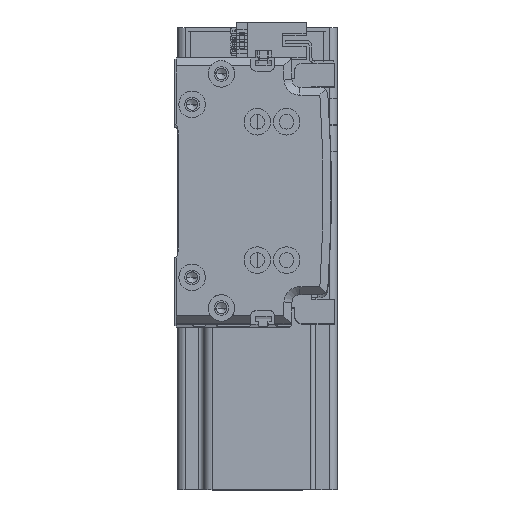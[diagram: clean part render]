
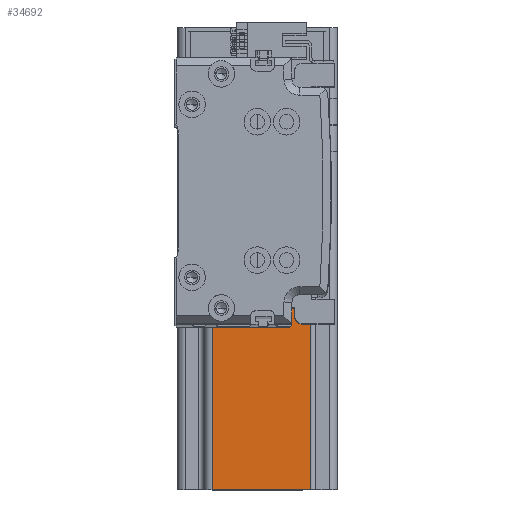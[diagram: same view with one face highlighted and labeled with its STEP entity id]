
A CAD part, top view. The second image highlights one B-rep face of the part: STEP entity #34692.
In plain terms, the highlighted planar face has unit normal (0, 0, 1) as drawn and (-1, 0, 0) by its records, which use the part's own axes.
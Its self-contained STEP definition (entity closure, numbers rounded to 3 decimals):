
#335 = EDGE_LOOP ( 'NONE', ( #41143, #12676, #42707, #19989, #7885, #39352, #22577, #38124 ) ) ;
#406 = VECTOR ( 'NONE', #41036, 1000. ) ;
#670 = VERTEX_POINT ( 'NONE', #20011 ) ;
#2030 = DIRECTION ( 'NONE',  ( 0., -1., 0. ) ) ;
#2531 = VERTEX_POINT ( 'NONE', #24961 ) ;
#2583 = EDGE_CURVE ( 'NONE', #26192, #2531, #28493, .T. ) ;
#3037 = EDGE_CURVE ( 'NONE', #26355, #2531, #22594, .T. ) ;
#3460 = DIRECTION ( 'NONE',  ( 0., 0., 1. ) ) ;
#3806 = PLANE ( 'NONE',  #6226 ) ;
#6226 = AXIS2_PLACEMENT_3D ( 'NONE', #18749, #44941, #22536 ) ;
#7885 = ORIENTED_EDGE ( 'NONE', *, *, #14185, .T. ) ;
#8187 = VECTOR ( 'NONE', #43621, 1000. ) ;
#8561 = VECTOR ( 'NONE', #23183, 1000. ) ;
#9615 = LINE ( 'NONE', #39224, #18375 ) ;
#9698 = LINE ( 'NONE', #19395, #8561 ) ;
#12676 = ORIENTED_EDGE ( 'NONE', *, *, #3037, .T. ) ;
#14185 = EDGE_CURVE ( 'NONE', #41310, #670, #39968, .T. ) ;
#14672 = CARTESIAN_POINT ( 'NONE',  ( -30., -27., 10. ) ) ;
#14793 = VERTEX_POINT ( 'NONE', #40577 ) ;
#16173 = CARTESIAN_POINT ( 'NONE',  ( -30., 30., 10. ) ) ;
#16820 = DIRECTION ( 'NONE',  ( 0., 1., 0. ) ) ;
#17719 = CARTESIAN_POINT ( 'NONE',  ( -30., -17., 137. ) ) ;
#17772 = CARTESIAN_POINT ( 'NONE',  ( -30., 20., 137. ) ) ;
#18375 = VECTOR ( 'NONE', #2030, 1000. ) ;
#18525 = VECTOR ( 'NONE', #20213, 1000. ) ;
#18749 = CARTESIAN_POINT ( 'NONE',  ( -30., -30., 137. ) ) ;
#19209 = CARTESIAN_POINT ( 'NONE',  ( -30., -17., 10. ) ) ;
#19395 = CARTESIAN_POINT ( 'NONE',  ( -30., -30., 0. ) ) ;
#19536 = EDGE_CURVE ( 'NONE', #670, #22773, #36758, .T. ) ;
#19989 = ORIENTED_EDGE ( 'NONE', *, *, #46159, .F. ) ;
#20011 = CARTESIAN_POINT ( 'NONE',  ( -30., 27., 10. ) ) ;
#20213 = DIRECTION ( 'NONE',  ( 0., -1., 0. ) ) ;
#20381 = CARTESIAN_POINT ( 'NONE',  ( -30., -30., 137. ) ) ;
#21109 = FACE_OUTER_BOUND ( 'NONE', #335, .T. ) ;
#21200 = CARTESIAN_POINT ( 'NONE',  ( -30., 27., 0. ) ) ;
#21389 = VECTOR ( 'NONE', #28992, 1000. ) ;
#22536 = DIRECTION ( 'NONE',  ( 0., 0., -1. ) ) ;
#22577 = ORIENTED_EDGE ( 'NONE', *, *, #36629, .T. ) ;
#22594 = LINE ( 'NONE', #17719, #21389 ) ;
#22773 = VERTEX_POINT ( 'NONE', #21200 ) ;
#22932 = LINE ( 'NONE', #29223, #42832 ) ;
#23183 = DIRECTION ( 'NONE',  ( 0., -1., 0. ) ) ;
#24574 = EDGE_CURVE ( 'NONE', #14793, #27397, #22932, .T. ) ;
#24961 = CARTESIAN_POINT ( 'NONE',  ( -30., -17., 137. ) ) ;
#26120 = CARTESIAN_POINT ( 'NONE',  ( -30., 20., 10. ) ) ;
#26192 = VERTEX_POINT ( 'NONE', #17772 ) ;
#26355 = VERTEX_POINT ( 'NONE', #19209 ) ;
#27397 = VERTEX_POINT ( 'NONE', #14672 ) ;
#28493 = LINE ( 'NONE', #20381, #18525 ) ;
#28992 = DIRECTION ( 'NONE',  ( 0., 0., 1. ) ) ;
#29223 = CARTESIAN_POINT ( 'NONE',  ( -30., -27., 137. ) ) ;
#30032 = VECTOR ( 'NONE', #16820, 1000. ) ;
#34692 = ADVANCED_FACE ( 'NONE', ( #21109 ), #3806, .F. ) ;
#36186 = CARTESIAN_POINT ( 'NONE',  ( -30., 27., 137. ) ) ;
#36629 = EDGE_CURVE ( 'NONE', #22773, #14793, #9698, .T. ) ;
#36758 = LINE ( 'NONE', #36186, #8187 ) ;
#37440 = EDGE_CURVE ( 'NONE', #26355, #27397, #9615, .T. ) ;
#38124 = ORIENTED_EDGE ( 'NONE', *, *, #24574, .T. ) ;
#39224 = CARTESIAN_POINT ( 'NONE',  ( -30., -30., 10. ) ) ;
#39352 = ORIENTED_EDGE ( 'NONE', *, *, #19536, .T. ) ;
#39968 = LINE ( 'NONE', #16173, #30032 ) ;
#40176 = LINE ( 'NONE', #26120, #406 ) ;
#40577 = CARTESIAN_POINT ( 'NONE',  ( -30., -27., 0. ) ) ;
#41036 = DIRECTION ( 'NONE',  ( 0., 0., 1. ) ) ;
#41143 = ORIENTED_EDGE ( 'NONE', *, *, #37440, .F. ) ;
#41310 = VERTEX_POINT ( 'NONE', #45586 ) ;
#42707 = ORIENTED_EDGE ( 'NONE', *, *, #2583, .F. ) ;
#42832 = VECTOR ( 'NONE', #3460, 1000. ) ;
#43621 = DIRECTION ( 'NONE',  ( 0., 0., -1. ) ) ;
#44941 = DIRECTION ( 'NONE',  ( 1., 0., 0. ) ) ;
#45586 = CARTESIAN_POINT ( 'NONE',  ( -30., 20., 10. ) ) ;
#46159 = EDGE_CURVE ( 'NONE', #41310, #26192, #40176, .T. ) ;
